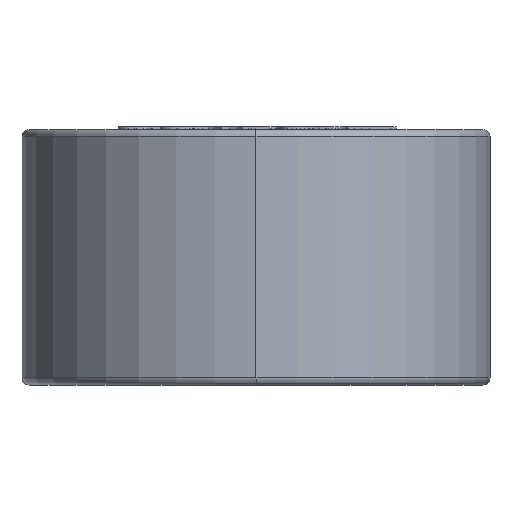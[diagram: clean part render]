
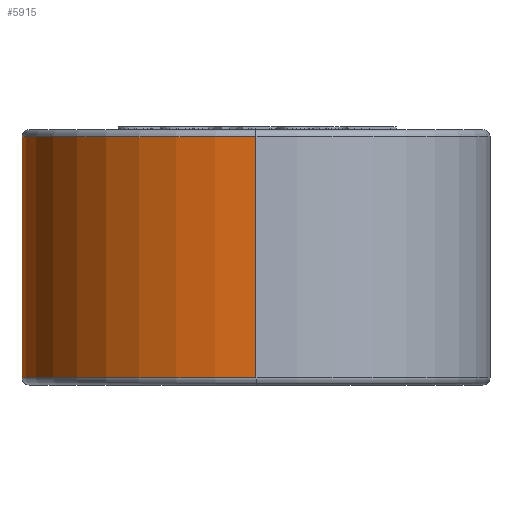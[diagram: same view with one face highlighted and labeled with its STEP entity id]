
A CAD part, left-side view. The second image highlights one B-rep face of the part: STEP entity #5915.
In plain terms, the highlighted cylindrical face has radius 16.5 mm (diameter 33 mm), a partial arc.
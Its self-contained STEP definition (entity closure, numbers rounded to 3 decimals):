
#21=CARTESIAN_POINT('',(0.,0.,-8.5));
#22=DIRECTION('',(0.,0.,-1.));
#23=DIRECTION('',(-1.,0.,0.));
#24=AXIS2_PLACEMENT_3D('',#21,#22,#23);
#26=DIRECTION('',(0.,0.,1.));
#27=VECTOR('',#26,6.);
#28=CARTESIAN_POINT('',(16.5,0.,-8.5));
#29=LINE('',#28,#27);
#30=CARTESIAN_POINT('',(16.5,0.,-2.5));
#31=CARTESIAN_POINT('',(16.5,0.211,-2.5));
#32=CARTESIAN_POINT('',(16.492,0.607,-2.447));
#33=CARTESIAN_POINT('',(16.464,1.119,-2.256));
#34=CARTESIAN_POINT('',(16.427,1.571,-1.971));
#35=CARTESIAN_POINT('',(16.383,1.974,-1.568));
#36=CARTESIAN_POINT('',(16.343,2.277,-1.086));
#37=CARTESIAN_POINT('',(16.315,2.465,-0.53));
#38=CARTESIAN_POINT('',(16.31,2.5,-0.177));
#39=CARTESIAN_POINT('',(16.31,2.5,0.));
#41=CARTESIAN_POINT('',(16.31,2.5,0.));
#42=CARTESIAN_POINT('',(16.31,2.5,0.176));
#43=CARTESIAN_POINT('',(16.315,2.466,0.527));
#44=CARTESIAN_POINT('',(16.343,2.275,1.091));
#45=CARTESIAN_POINT('',(16.383,1.969,1.575));
#46=CARTESIAN_POINT('',(16.428,1.561,1.979));
#47=CARTESIAN_POINT('',(16.465,1.105,2.263));
#48=CARTESIAN_POINT('',(16.492,0.596,2.449));
#49=CARTESIAN_POINT('',(16.5,0.206,2.5));
#50=CARTESIAN_POINT('',(16.5,0.,2.5));
#52=DIRECTION('',(0.,0.,1.));
#53=VECTOR('',#52,6.);
#54=CARTESIAN_POINT('',(16.5,0.,2.5));
#55=LINE('',#54,#53);
#56=CARTESIAN_POINT('',(0.,0.,8.5));
#57=DIRECTION('',(0.,0.,1.));
#58=DIRECTION('',(1.,0.,0.));
#59=AXIS2_PLACEMENT_3D('',#56,#57,#58);
#66=DIRECTION('',(0.,0.,1.));
#67=VECTOR('',#66,17.);
#68=CARTESIAN_POINT('',(-16.5,0.,-8.5));
#69=LINE('',#68,#67);
#4411=VERTEX_POINT('',#30);
#4412=VERTEX_POINT('',#39);
#4413=VERTEX_POINT('',#50);
#4419=CARTESIAN_POINT('',(16.5,0.,-8.5));
#4420=CARTESIAN_POINT('',(-16.5,0.,-8.5));
#4421=VERTEX_POINT('',#4419);
#4422=VERTEX_POINT('',#4420);
#4427=CARTESIAN_POINT('',(-16.5,0.,8.5));
#4428=CARTESIAN_POINT('',(16.5,0.,8.5));
#4429=VERTEX_POINT('',#4427);
#4430=VERTEX_POINT('',#4428);
#5895=CARTESIAN_POINT('',(0.,0.,-9.));
#5896=DIRECTION('',(0.,0.,1.));
#5897=DIRECTION('',(1.,0.,0.));
#5898=AXIS2_PLACEMENT_3D('',#5895,#5896,#5897);
#5899=CYLINDRICAL_SURFACE('',#5898,16.5);
#5900=ORIENTED_EDGE('',*,*,#5889,.T.);
#5902=ORIENTED_EDGE('',*,*,#5901,.T.);
#5904=ORIENTED_EDGE('',*,*,#5903,.T.);
#5906=ORIENTED_EDGE('',*,*,#5905,.T.);
#5908=ORIENTED_EDGE('',*,*,#5907,.T.);
#5910=ORIENTED_EDGE('',*,*,#5909,.T.);
#5912=ORIENTED_EDGE('',*,*,#5911,.F.);
#5913=EDGE_LOOP('',(#5900,#5902,#5904,#5906,#5908,#5910,#5912));
#5914=FACE_OUTER_BOUND('',#5913,.F.);
#5915=ADVANCED_FACE('',(#5914),#5899,.T.);
#25=CIRCLE('',#24,16.5);
#40=B_SPLINE_CURVE_WITH_KNOTS('',3,(#30,#31,#32,#33,#34,#35,#36,#37,#38,#39),
.UNSPECIFIED.,.F.,.F.,(4,1,1,1,1,1,1,4),(0.,0.143,
0.286,0.429,0.571,0.714,
0.857,1.),.UNSPECIFIED.);
#51=B_SPLINE_CURVE_WITH_KNOTS('',3,(#41,#42,#43,#44,#45,#46,#47,#48,#49,#50),
.UNSPECIFIED.,.F.,.F.,(4,1,1,1,1,1,1,4),(0.,0.143,
0.286,0.429,0.571,0.714,
0.857,1.),.UNSPECIFIED.);
#60=CIRCLE('',#59,16.5);
#5889=EDGE_CURVE('',#4422,#4421,#25,.T.);
#5901=EDGE_CURVE('',#4421,#4411,#29,.T.);
#5903=EDGE_CURVE('',#4411,#4412,#40,.T.);
#5905=EDGE_CURVE('',#4412,#4413,#51,.T.);
#5907=EDGE_CURVE('',#4413,#4430,#55,.T.);
#5909=EDGE_CURVE('',#4430,#4429,#60,.T.);
#5911=EDGE_CURVE('',#4422,#4429,#69,.T.);
